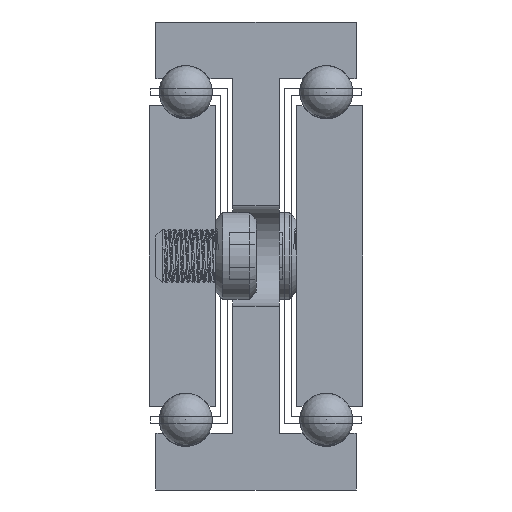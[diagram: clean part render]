
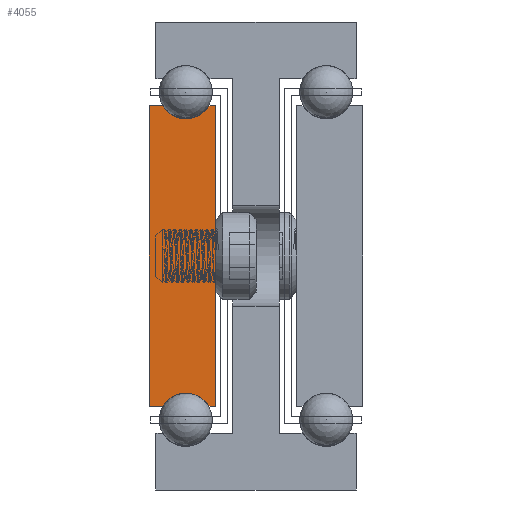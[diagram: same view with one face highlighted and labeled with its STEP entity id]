
A CAD part, front view. The second image highlights one B-rep face of the part: STEP entity #4055.
In plain terms, the highlighted planar face has unit normal (0, -1, 0).
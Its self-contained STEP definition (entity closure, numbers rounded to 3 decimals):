
#300=LINE('',#6162,#512);
#303=LINE('',#6168,#515);
#307=LINE('',#6180,#519);
#310=LINE('',#6186,#522);
#313=LINE('',#6192,#525);
#317=LINE('',#6202,#529);
#512=VECTOR('',#4922,1.);
#515=VECTOR('',#4927,1.);
#519=VECTOR('',#4939,1.);
#522=VECTOR('',#4944,1.);
#525=VECTOR('',#4949,1.);
#529=VECTOR('',#4961,1.);
#729=PLANE('',#4375);
#1061=FACE_OUTER_BOUND('',#1307,.T.);
#1307=EDGE_LOOP('',(#3176,#3177,#3178,#3179,#3180,#3181,#3182,#3183));
#1721=CIRCLE('',#4366,4.);
#1723=CIRCLE('',#4372,4.);
#2034=VERTEX_POINT('',#6159);
#2035=VERTEX_POINT('',#6161);
#2037=VERTEX_POINT('',#6167);
#2039=VERTEX_POINT('',#6173);
#2041=VERTEX_POINT('',#6179);
#2043=VERTEX_POINT('',#6185);
#2045=VERTEX_POINT('',#6191);
#2047=VERTEX_POINT('',#6197);
#2568=EDGE_CURVE('',#2035,#2034,#300,.T.);
#2571=EDGE_CURVE('',#2037,#2035,#303,.T.);
#2574=EDGE_CURVE('',#2039,#2037,#1721,.T.);
#2577=EDGE_CURVE('',#2041,#2039,#307,.T.);
#2580=EDGE_CURVE('',#2043,#2041,#310,.T.);
#2583=EDGE_CURVE('',#2045,#2043,#313,.T.);
#2586=EDGE_CURVE('',#2047,#2045,#1723,.T.);
#2589=EDGE_CURVE('',#2034,#2047,#317,.T.);
#3176=ORIENTED_EDGE('',*,*,#2589,.T.);
#3177=ORIENTED_EDGE('',*,*,#2586,.T.);
#3178=ORIENTED_EDGE('',*,*,#2583,.T.);
#3179=ORIENTED_EDGE('',*,*,#2580,.T.);
#3180=ORIENTED_EDGE('',*,*,#2577,.T.);
#3181=ORIENTED_EDGE('',*,*,#2574,.T.);
#3182=ORIENTED_EDGE('',*,*,#2571,.T.);
#3183=ORIENTED_EDGE('',*,*,#2568,.T.);
#4055=ADVANCED_FACE('',(#1061),#729,.T.);
#4366=AXIS2_PLACEMENT_3D('',#6174,#4933,#4934);
#4372=AXIS2_PLACEMENT_3D('',#6198,#4955,#4956);
#4375=AXIS2_PLACEMENT_3D('',#6204,#4964,#4965);
#4922=DIRECTION('',(0.,0.,-1.));
#4927=DIRECTION('',(-1.,0.,0.));
#4933=DIRECTION('center_axis',(0.,1.,0.));
#4934=DIRECTION('ref_axis',(-0.866,0.,-0.5));
#4939=DIRECTION('',(-1.,0.,0.));
#4944=DIRECTION('',(0.,0.,1.));
#4949=DIRECTION('',(1.,0.,0.));
#4955=DIRECTION('center_axis',(0.,1.,0.));
#4956=DIRECTION('ref_axis',(0.866,0.,0.5));
#4961=DIRECTION('',(1.,0.,0.));
#4964=DIRECTION('center_axis',(0.,-1.,0.));
#4965=DIRECTION('ref_axis',(1.,0.,0.));
#6159=CARTESIAN_POINT('',(4957.567,-447.174,577.5));
#6161=CARTESIAN_POINT('',(4957.567,-447.174,622.5));
#6162=CARTESIAN_POINT('',(4957.567,-447.174,577.5));
#6167=CARTESIAN_POINT('',(4959.603,-447.174,622.5));
#6168=CARTESIAN_POINT('',(4957.567,-447.174,622.5));
#6173=CARTESIAN_POINT('',(4966.531,-447.174,622.5));
#6174=CARTESIAN_POINT('Origin',(4963.067,-447.174,624.5));
#6179=CARTESIAN_POINT('',(4967.567,-447.174,622.5));
#6180=CARTESIAN_POINT('',(4966.531,-447.174,622.5));
#6185=CARTESIAN_POINT('',(4967.567,-447.174,577.5));
#6186=CARTESIAN_POINT('',(4967.567,-447.174,622.5));
#6191=CARTESIAN_POINT('',(4966.531,-447.174,577.5));
#6192=CARTESIAN_POINT('',(4967.567,-447.174,577.5));
#6197=CARTESIAN_POINT('',(4959.603,-447.174,577.5));
#6198=CARTESIAN_POINT('Origin',(4963.067,-447.174,575.5));
#6202=CARTESIAN_POINT('',(4959.603,-447.174,577.5));
#6204=CARTESIAN_POINT('Origin',(4962.561,-447.174,600.));
